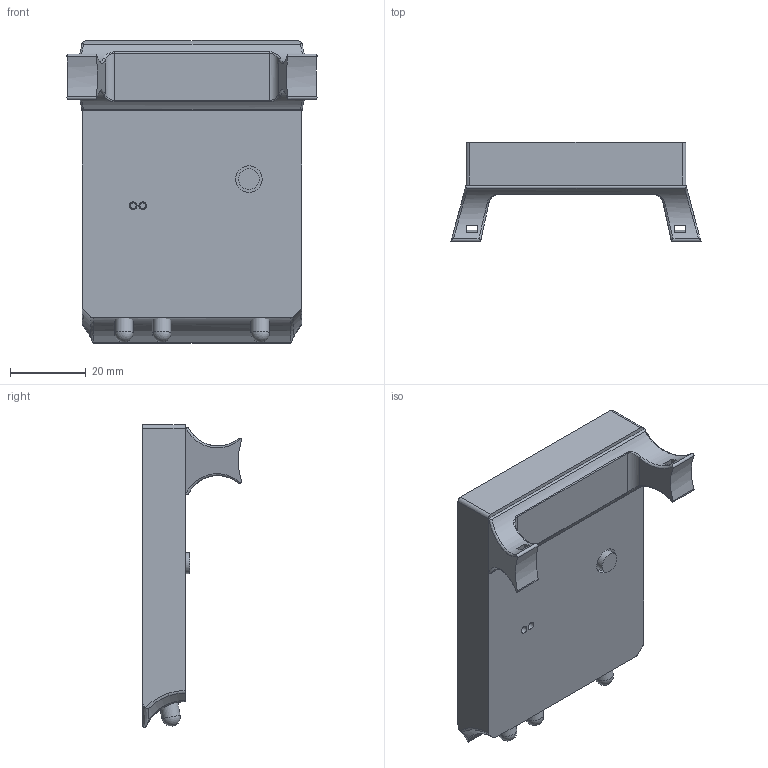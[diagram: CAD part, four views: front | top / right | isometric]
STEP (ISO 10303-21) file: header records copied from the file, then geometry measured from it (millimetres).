
FILE_DESCRIPTION(/* description */ ('Unknown'),/* implementation_level */ '2;1');
FILE_NAME(/* name */ 'BikeLight_Front_MTB',/* time_stamp */ '2020-07-08T22:47:28+02:00',/* author */ ('Unknown'),/* organization */ ('Unknown'),/* preprocessor_version */ 'ST-DEVELOPER v16.7',/* originating_system */ 'Solid Edge',/* authorisation */ 'Unknown');
FILE_SCHEMA (('AUTOMOTIVE_DESIGN {1 0 10303 214 3 1 1}'));
Length unit declared in the file: millimetre
Products named in the file (8): BikeLight_Front_MTB; Li_Battery_3.7V_240mAh; SolarPanel_6V_0.5W; Mobile_Charger_PCB_New; Holder_light_front3LED_MTB; switch_12x12x9; LED_front; Holder_light_front_MTB35_adapter
Assembly tree (7 placements, depth 2):
  BikeLight_Front_MTB
    Li_Battery_3.7V_240mAh
    SolarPanel_6V_0.5W
    Mobile_Charger_PCB_New
    Holder_light_front3LED_MTB
    switch_12x12x9
    LED_front
    Holder_light_front_MTB35_adapter
Bounding box: 65.96 x 26.1 x 79.77 mm (x, y, z)
Volume: 30590.9 mm3; surface area: 30750.1 mm2
Topology: 9 solids, 9 shells, 167 faces, 409 edges, 269 vertices
Faces by surface type: plane 98, cylinder 46, bspline 14, torus 4, sphere 3, cone 2
Full cylindrical faces by diameter (mm): 1.5 x2, 1.75 x2, 1.8 x2, 2 x4, 3.5 x3, 4.9 x3, 5.5 x1, 5.9 x3, 7 x1
Entity records: 5216 total; most frequent: CARTESIAN_POINT 1188, DIRECTION 784, ORIENTED_EDGE 746, EDGE_CURVE 373, AXIS2_PLACEMENT_3D 287, VERTEX_POINT 257, EDGE_LOOP 220, FACE_BOUND 220
